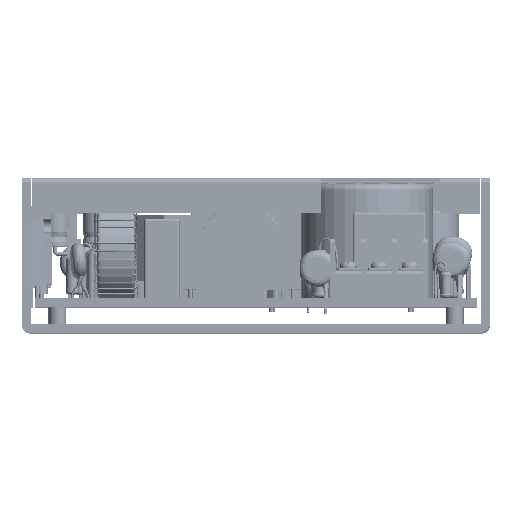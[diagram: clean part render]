
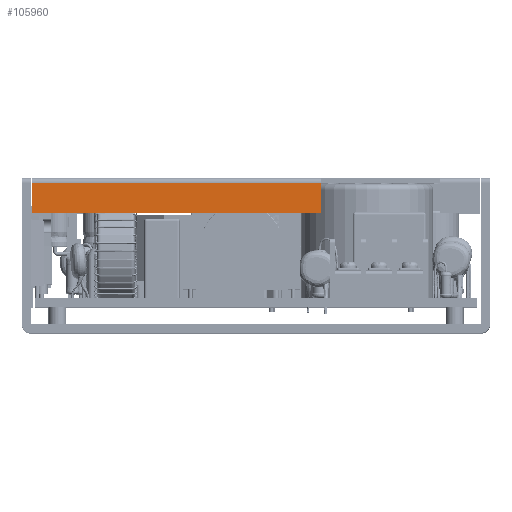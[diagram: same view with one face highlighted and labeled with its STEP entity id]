
A CAD part, top view. The second image highlights one B-rep face of the part: STEP entity #105960.
In plain terms, the highlighted planar face has unit normal (0, 0, 1).
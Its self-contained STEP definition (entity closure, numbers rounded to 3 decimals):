
#30460 = VERTEX_POINT ( 'NONE', #44583 ) ;
#30464 = VERTEX_POINT ( 'NONE', #44584 ) ;
#30569 = VERTEX_POINT ( 'NONE', #44625 ) ;
#30570 = VERTEX_POINT ( 'NONE', #44626 ) ;
#38532 = FACE_OUTER_BOUND ( 'NONE', #69639, .T. ) ;
#44583 = CARTESIAN_POINT ( 'NONE',  ( -53.002, 10.974, 75. ) ) ;
#44584 = CARTESIAN_POINT ( 'NONE',  ( -53.002, 4.174, 75. ) ) ;
#44625 = CARTESIAN_POINT ( 'NONE',  ( 12.398, 4.174, 75. ) ) ;
#44626 = CARTESIAN_POINT ( 'NONE',  ( 12.398, 10.974, 75. ) ) ;
#46195 = CARTESIAN_POINT ( 'NONE',  ( -53.002, 10.974, 75. ) ) ;
#46197 = DIRECTION ( 'NONE',  ( -1., 0., 0. ) ) ;
#46199 = CARTESIAN_POINT ( 'NONE',  ( 12.398, 4.174, 75. ) ) ;
#46201 = DIRECTION ( 'NONE',  ( 0., 1., 0. ) ) ;
#46213 = CARTESIAN_POINT ( 'NONE',  ( -53.002, 4.174, 75. ) ) ;
#46215 = DIRECTION ( 'NONE',  ( -1., 0., 0. ) ) ;
#46318 = CARTESIAN_POINT ( 'NONE',  ( -53.002, 11.974, 75. ) ) ;
#46320 = DIRECTION ( 'NONE',  ( 0., -1., 0. ) ) ;
#47376 = VECTOR ( 'NONE', #46197, 1000. ) ;
#47379 = VECTOR ( 'NONE', #46201, 1000. ) ;
#47388 = VECTOR ( 'NONE', #46215, 1000. ) ;
#47471 = VECTOR ( 'NONE', #46320, 1000. ) ;
#53969 = PLANE ( 'NONE',  #54704 ) ;
#53970 = CARTESIAN_POINT ( 'NONE',  ( -53.002, 11.974, 75. ) ) ;
#53971 = DIRECTION ( 'NONE',  ( 0., 0., -1. ) ) ;
#53972 = DIRECTION ( 'NONE',  ( 0., -1., 0. ) ) ;
#54704 = AXIS2_PLACEMENT_3D ( 'NONE', #53970, #53971, #53972 ) ;
#69639 = EDGE_LOOP ( 'NONE', ( #71535, #71540, #71538, #71541 ) ) ;
#70685 = EDGE_CURVE ( 'NONE', #30570, #30460, #101950, .T. ) ;
#70686 = EDGE_CURVE ( 'NONE', #30569, #30570, #101951, .T. ) ;
#70689 = EDGE_CURVE ( 'NONE', #30569, #30464, #101953, .T. ) ;
#70714 = EDGE_CURVE ( 'NONE', #30460, #30464, #101973, .T. ) ;
#71535 = ORIENTED_EDGE ( 'NONE', *, *, #70686, .T. ) ;
#71538 = ORIENTED_EDGE ( 'NONE', *, *, #70714, .T. ) ;
#71540 = ORIENTED_EDGE ( 'NONE', *, *, #70685, .T. ) ;
#71541 = ORIENTED_EDGE ( 'NONE', *, *, #70689, .F. ) ;
#101950 = LINE ( 'NONE', #46195, #47376 ) ;
#101951 = LINE ( 'NONE', #46199, #47379 ) ;
#101953 = LINE ( 'NONE', #46213, #47388 ) ;
#101973 = LINE ( 'NONE', #46318, #47471 ) ;
#105960 = ADVANCED_FACE ( 'NONE', ( #38532 ), #53969, .F. ) ;
